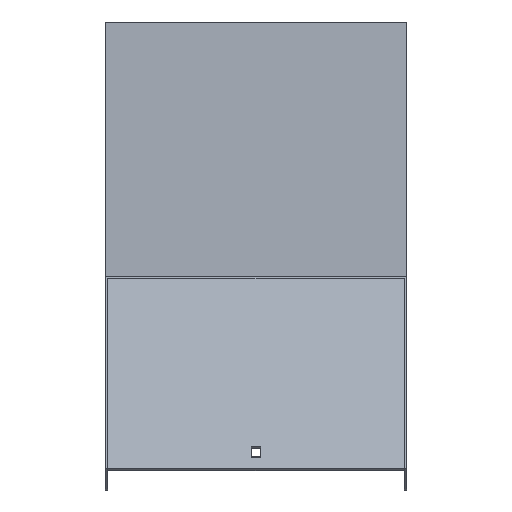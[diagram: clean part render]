
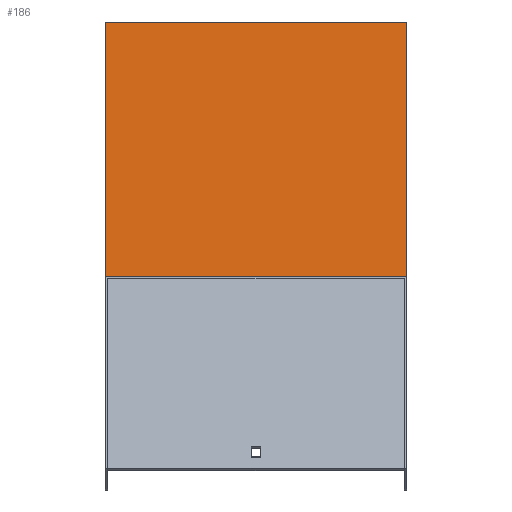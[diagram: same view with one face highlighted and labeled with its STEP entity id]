
A CAD part, top view. The second image highlights one B-rep face of the part: STEP entity #186.
In plain terms, the highlighted planar face has unit normal (0, 0.924, 0.383).
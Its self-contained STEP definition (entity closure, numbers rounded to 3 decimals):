
#11 = DIRECTION ( 'NONE',  ( 0., -0.383, 0.924 ) ) ;
#30 = CARTESIAN_POINT ( 'NONE',  ( 101.5, -152.191, 599.684 ) ) ;
#60 = EDGE_CURVE ( 'NONE', #550, #274, #328, .T. ) ;
#95 = VECTOR ( 'NONE', #332, 1000. ) ;
#109 = LINE ( 'NONE', #174, #568 ) ;
#174 = CARTESIAN_POINT ( 'NONE',  ( 101.5, 20., 183.978 ) ) ;
#177 = CARTESIAN_POINT ( 'NONE',  ( 101.5, 20., 183.978 ) ) ;
#185 = AXIS2_PLACEMENT_3D ( 'NONE', #419, #684, #235 ) ;
#186 = ADVANCED_FACE ( 'NONE', ( #223 ), #735, .F. ) ;
#216 = EDGE_CURVE ( 'NONE', #319, #800, #595, .T. ) ;
#223 = FACE_OUTER_BOUND ( 'NONE', #498, .T. ) ;
#235 = DIRECTION ( 'NONE',  ( 0., 0.383, -0.924 ) ) ;
#268 = ORIENTED_EDGE ( 'NONE', *, *, #775, .F. ) ;
#274 = VERTEX_POINT ( 'NONE', #470 ) ;
#288 = CARTESIAN_POINT ( 'NONE',  ( 101.5, -152.191, 599.684 ) ) ;
#309 = CARTESIAN_POINT ( 'NONE',  ( -101.5, 20., 183.978 ) ) ;
#319 = VERTEX_POINT ( 'NONE', #177 ) ;
#328 = LINE ( 'NONE', #392, #95 ) ;
#332 = DIRECTION ( 'NONE',  ( 0., -0.383, 0.924 ) ) ;
#392 = CARTESIAN_POINT ( 'NONE',  ( -101.5, 18.478, 187.654 ) ) ;
#419 = CARTESIAN_POINT ( 'NONE',  ( 101.5, 18.478, 187.654 ) ) ;
#446 = ORIENTED_EDGE ( 'NONE', *, *, #60, .T. ) ;
#470 = CARTESIAN_POINT ( 'NONE',  ( -101.5, -152.191, 599.684 ) ) ;
#492 = DIRECTION ( 'NONE',  ( -1., 0., 0. ) ) ;
#498 = EDGE_LOOP ( 'NONE', ( #446, #268, #571, #654 ) ) ;
#519 = VECTOR ( 'NONE', #599, 1000. ) ;
#550 = VERTEX_POINT ( 'NONE', #309 ) ;
#568 = VECTOR ( 'NONE', #492, 1000. ) ;
#571 = ORIENTED_EDGE ( 'NONE', *, *, #216, .F. ) ;
#595 = LINE ( 'NONE', #664, #683 ) ;
#599 = DIRECTION ( 'NONE',  ( -1., 0., 0. ) ) ;
#654 = ORIENTED_EDGE ( 'NONE', *, *, #841, .T. ) ;
#664 = CARTESIAN_POINT ( 'NONE',  ( 101.5, 18.478, 187.654 ) ) ;
#683 = VECTOR ( 'NONE', #11, 1000. ) ;
#684 = DIRECTION ( 'NONE',  ( 0., -0.924, -0.383 ) ) ;
#735 = PLANE ( 'NONE',  #185 ) ;
#749 = LINE ( 'NONE', #288, #519 ) ;
#775 = EDGE_CURVE ( 'NONE', #800, #274, #749, .T. ) ;
#800 = VERTEX_POINT ( 'NONE', #30 ) ;
#841 = EDGE_CURVE ( 'NONE', #319, #550, #109, .T. ) ;
